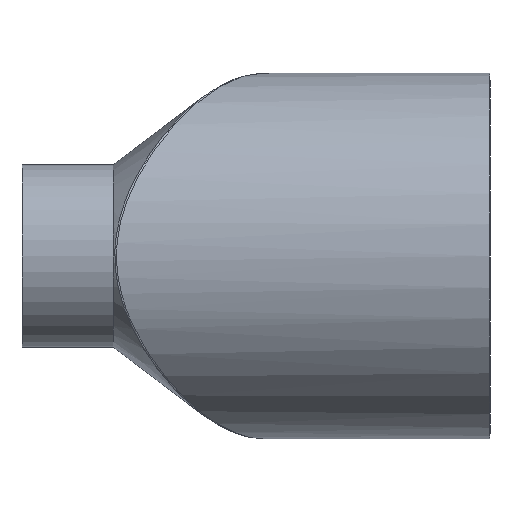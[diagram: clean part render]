
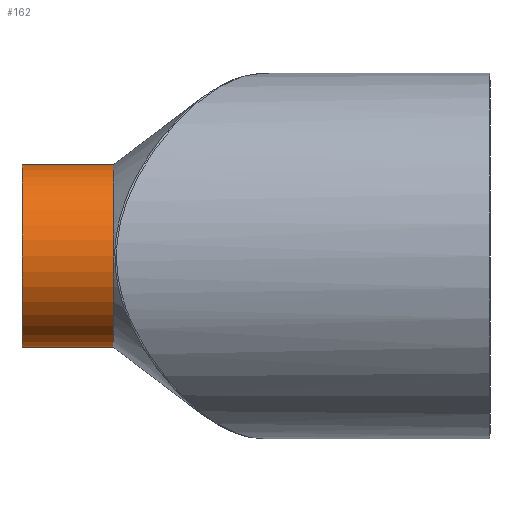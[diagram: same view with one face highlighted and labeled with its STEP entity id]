
A CAD part, front view. The second image highlights one B-rep face of the part: STEP entity #162.
In plain terms, the highlighted cylindrical face has radius 25.4 mm (diameter 50.8 mm), a partial arc.
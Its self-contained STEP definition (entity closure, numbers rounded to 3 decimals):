
#35 = VERTEX_POINT ( 'NONE', #1751 ) ;
#162 = ADVANCED_FACE ( 'NONE', ( #1039 ), #291, .T. ) ;
#283 = EDGE_CURVE ( 'NONE', #1182, #35, #1009, .T. ) ;
#291 = CYLINDRICAL_SURFACE ( 'NONE', #940, 25.4 ) ;
#305 = AXIS2_PLACEMENT_3D ( 'NONE', #1590, #774, #1712 ) ;
#332 = AXIS2_PLACEMENT_3D ( 'NONE', #1718, #392, #372 ) ;
#354 = ORIENTED_EDGE ( 'NONE', *, *, #283, .T. ) ;
#372 = DIRECTION ( 'NONE',  ( 0., 0., -1. ) ) ;
#392 = DIRECTION ( 'NONE',  ( 1., 0., 0. ) ) ;
#633 = CIRCLE ( 'NONE', #332, 25.4 ) ;
#680 = VECTOR ( 'NONE', #1453, 1000. ) ;
#753 = EDGE_CURVE ( 'NONE', #1007, #35, #633, .T. ) ;
#774 = DIRECTION ( 'NONE',  ( 1., 0., 0. ) ) ;
#940 = AXIS2_PLACEMENT_3D ( 'NONE', #1156, #1111, #1139 ) ;
#1007 = VERTEX_POINT ( 'NONE', #1659 ) ;
#1009 = LINE ( 'NONE', #1423, #1664 ) ;
#1039 = FACE_OUTER_BOUND ( 'NONE', #1507, .T. ) ;
#1111 = DIRECTION ( 'NONE',  ( 1., 0., 0. ) ) ;
#1139 = DIRECTION ( 'NONE',  ( 0., 0., -1. ) ) ;
#1155 = VERTEX_POINT ( 'NONE', #1549 ) ;
#1156 = CARTESIAN_POINT ( 'NONE',  ( -85.198, -24.94, 0. ) ) ;
#1166 = CARTESIAN_POINT ( 'NONE',  ( -130.175, -24.94, -25.4 ) ) ;
#1182 = VERTEX_POINT ( 'NONE', #1166 ) ;
#1318 = CARTESIAN_POINT ( 'NONE',  ( -85.198, -24.94, 25.4 ) ) ;
#1418 = DIRECTION ( 'NONE',  ( 1., 0., 0. ) ) ;
#1423 = CARTESIAN_POINT ( 'NONE',  ( -85.198, -24.94, -25.4 ) ) ;
#1425 = CIRCLE ( 'NONE', #305, 25.4 ) ;
#1431 = ORIENTED_EDGE ( 'NONE', *, *, #1528, .T. ) ;
#1436 = EDGE_CURVE ( 'NONE', #1155, #1007, #1638, .T. ) ;
#1453 = DIRECTION ( 'NONE',  ( 1., 0., 0. ) ) ;
#1507 = EDGE_LOOP ( 'NONE', ( #1570, #1431, #354, #1576 ) ) ;
#1528 = EDGE_CURVE ( 'NONE', #1155, #1182, #1425, .T. ) ;
#1549 = CARTESIAN_POINT ( 'NONE',  ( -130.175, -24.94, 25.4 ) ) ;
#1570 = ORIENTED_EDGE ( 'NONE', *, *, #1436, .F. ) ;
#1576 = ORIENTED_EDGE ( 'NONE', *, *, #753, .F. ) ;
#1590 = CARTESIAN_POINT ( 'NONE',  ( -130.175, -24.94, 0. ) ) ;
#1638 = LINE ( 'NONE', #1318, #680 ) ;
#1659 = CARTESIAN_POINT ( 'NONE',  ( -104.775, -24.94, 25.4 ) ) ;
#1664 = VECTOR ( 'NONE', #1418, 1000. ) ;
#1712 = DIRECTION ( 'NONE',  ( 0., 0., -1. ) ) ;
#1718 = CARTESIAN_POINT ( 'NONE',  ( -104.775, -24.94, 0. ) ) ;
#1751 = CARTESIAN_POINT ( 'NONE',  ( -104.775, -24.94, -25.4 ) ) ;
